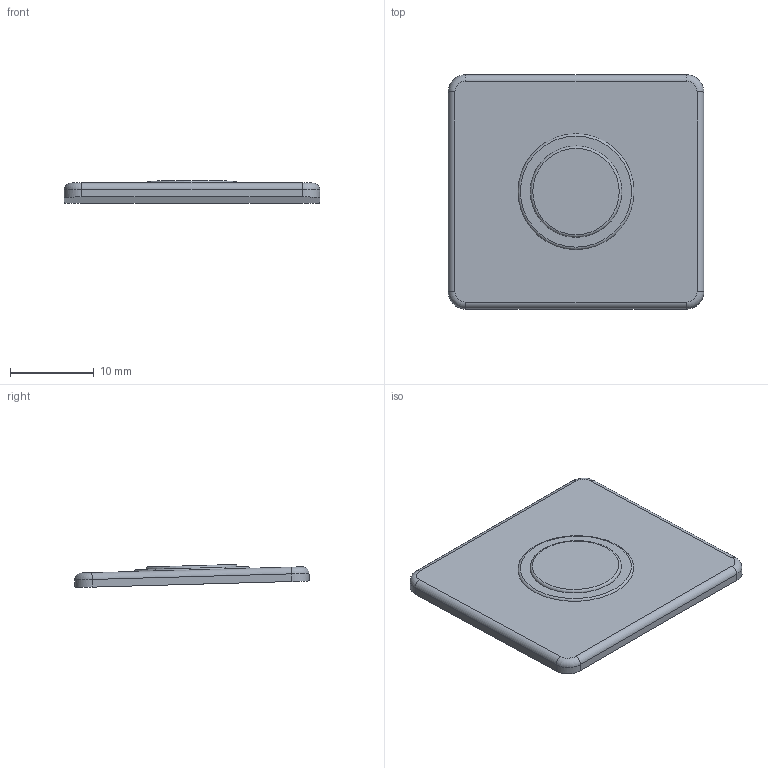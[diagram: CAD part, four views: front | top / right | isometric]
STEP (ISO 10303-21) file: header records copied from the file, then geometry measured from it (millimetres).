
FILE_DESCRIPTION(/* description */ ('','CAx-IF Rec.Pracs.---Representation and Presentation of Product Manufacturing Information (PMI)---4.0---2014-10-13'),/* implementation_level */ '2;1');
FILE_NAME(/* name */ '20thhuckinshatch2.step',/* time_stamp */ '2025-03-21T20:55:09+11:00',/* author */ (''),/* organization */ (''),/* preprocessor_version */ 'ST-DEVELOPER v20',/* originating_system */ 'Autodesk Translation Framework v13.20.0.188',/* authorisation */ '');
FILE_SCHEMA (('AP242_MANAGED_MODEL_BASED_3D_ENGINEERING_MIM_LF { 1 0 10303 442 1 1 4 }'));
Length unit declared in the file: millimetre
Products named in the file (1): HuckinsDeckParts
Bounding box: 30.48 x 27.95 x 2.74 mm (x, y, z)
Volume: 1457.5 mm3; surface area: 1858 mm2
Topology: 1 solids, 1 shells, 22 faces, 46 edges, 28 vertices
Faces by surface type: cylinder 9, plane 7, torus 6
Entity records: 674 total; most frequent: CARTESIAN_POINT 142, DIRECTION 112, ORIENTED_EDGE 92, AXIS2_PLACEMENT_3D 47, EDGE_CURVE 46, VERTEX_POINT 28, EDGE_LOOP 24, CIRCLE 24
